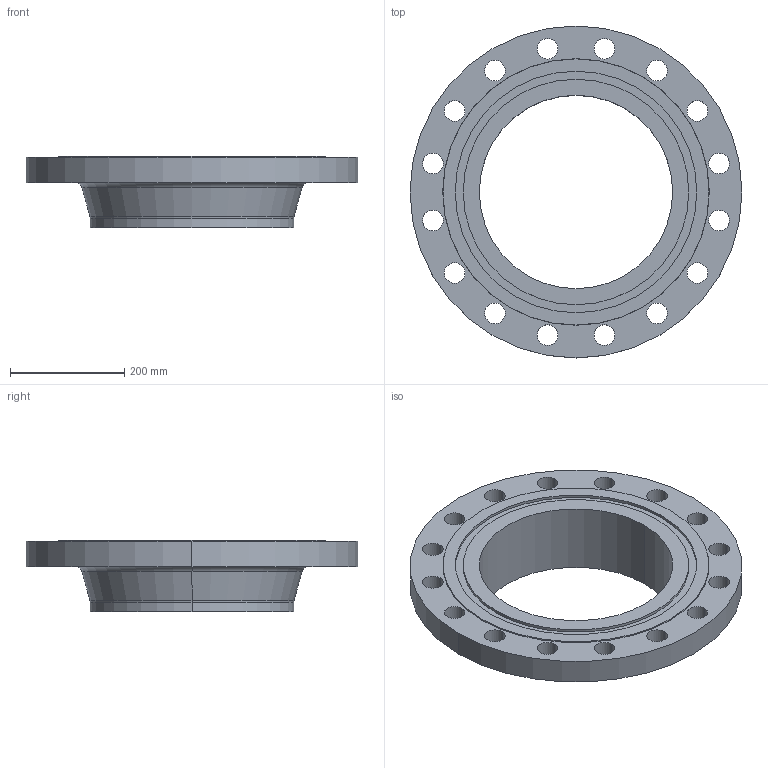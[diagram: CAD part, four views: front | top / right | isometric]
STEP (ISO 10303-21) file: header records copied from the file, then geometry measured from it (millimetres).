
FILE_DESCRIPTION (( 'STEP AP214' ), '1' );
FILE_NAME ('PN40 DN350 Type 11 - Type D Face.STEP', '2019-01-05T21:53:58', ( '' ), ( '' ), 'SwSTEP 2.0', 'SolidWorks 2019', '' );
FILE_SCHEMA (( 'AUTOMOTIVE_DESIGN' ));
Length unit declared in the file: millimetre
Products named in the file (1): PN40 DN350 Type 11 - Type D Face
Bounding box: 580 x 580 x 125 mm (x, y, z)
Volume: 8406591.6 mm3; surface area: 695247.8 mm2
Topology: 1 solids, 1 shells, 56 faces, 144 edges, 94 vertices
Faces by surface type: cylinder 42, plane 6, torus 4, cone 4
Entity records: 1860 total; most frequent: DIRECTION 356, CARTESIAN_POINT 295, ORIENTED_EDGE 288, AXIS2_PLACEMENT_3D 155, EDGE_CURVE 144, CIRCLE 98, VERTEX_POINT 94, EDGE_LOOP 94
